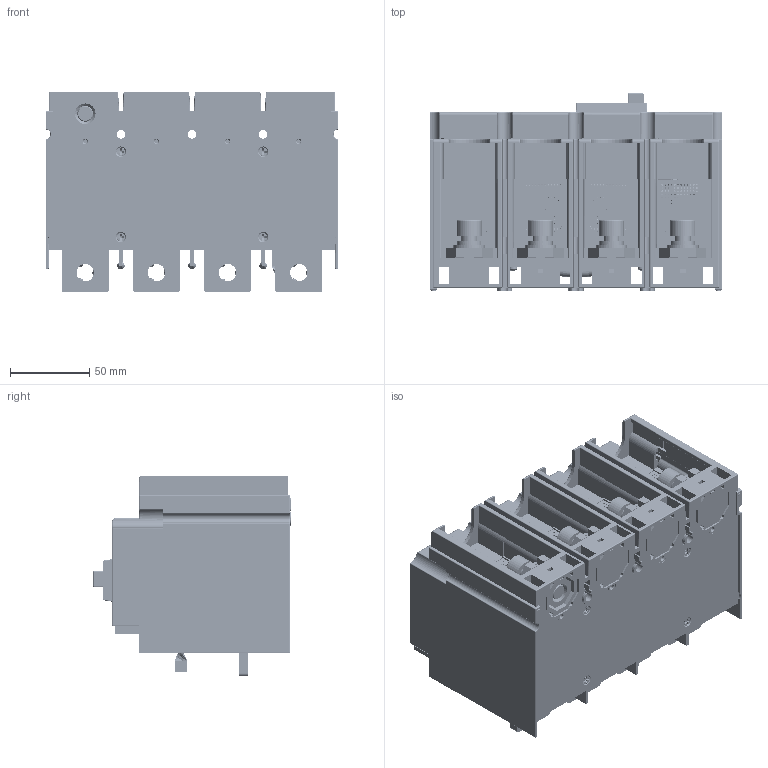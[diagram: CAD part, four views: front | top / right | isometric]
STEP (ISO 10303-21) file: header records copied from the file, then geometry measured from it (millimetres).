
FILE_DESCRIPTION((''),'2;1');
FILE_NAME('6ZTD-229-385-1-6_ASM','2020-07-29T17:38:56',('zhxmin'),(''),'CREO PARAMETRIC BY PTC INC, 2018020','CREO PARAMETRIC BY PTC INC, 2018020','');
FILE_SCHEMA(('CONFIG_CONTROL_DESIGN','SHAPE_APPEARANCE_LAYERS_GROUPS'));
Products named in the file (91): 8ZTD-024-484; 8043M0101008; 8300M0101011; 8615M0725003; 8300M0101012; 6179M1526003V1; 6179M1526003V2; 8369M0306004; 8369M0306005; 6179M1526003_ASM; 8043M0101009; 8580M0405013; 8580M0405015; 5519M1526031_ASM; 8580M0405011; 5519M1526029_ASM; 8580M0405012; 5519M1526030_ASM; 8580M0406016; 8580M0406017; 8580M0406018; 8580M0405014; 5519M1526032_ASM; 8580M0406019; GBT860-4; GBT70_1-M4X35; 5519M1526027V1; 5519M1526027V2; 5519M1526028_ASM; 8043M0101010; 8599M1121001; 5599M1121002V1; 5599M1121002V2; 5599M1121002V3; 5599M11210021-2_ASM; 8599M1121002; 5599M1121003_ASM; 5599M11212011-4_ASM; 8315M0101031; 8742M0101010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
Assembly tree (177 placements, depth 8):
  6ZTD-229-385-1-6_ASM
    8ZTD-024-484
    5519M1526028_ASM
      8043M0101008
      6179M1526003_ASM
        8300M0101011
        8615M0725003
        8300M0101012
        6179M1526003V1
        6179M1526003V2
        8369M0306004  x2
        8369M0306005  x36
      8043M0101009
      5519M1526031_ASM
        8580M0405013
        8580M0405015
      5519M1526029_ASM
        8580M0405011
        8580M0405015
      5519M1526030_ASM
        8580M0405012
        8580M0405015
      8580M0406016
      8580M0406017
      8580M0406018
      5519M1526032_ASM
        8580M0405014
        8580M0405015
      8580M0406019
      GBT860-4  x8
      GBT70_1-M4X35  x8
      5519M1526027V1  x4
      5519M1526027V2  x4
    8043M0101010
    5599M11212011-4_ASM
      5599M11210021-2_ASM
        8599M1121001
        5599M1121002V1  x2
        5599M1121002V2
        5599M1121002V3
      5599M1121003_ASM
        8599M1121002
    8315M0101031
    8742M0101010  x4
    8940M0312001  x4
    8300M0101003  x4
    5ZTD-315-547_ASM
      8ZTD-315-1465
      5ZTD-295-570_ASM
        5ZTD-295-569_ASM
          5295M1526017_ASM
            5050M1526001_ASM
            5235M1526003_ASM
              5235M1501003_ASM
                5235M1501003V1
                8239M0304003
              8206M0312021
              8288M0820022
              8231M0306001
            5257M1526007_ASM
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Bounding box: 185 x 125 x 127 mm (x, y, z)
Volume: 755810.6 mm3; surface area: 749562.7 mm2
Topology: 162 solids, 207 shells, 8346 faces, 22164 edges, 14391 vertices
Faces by surface type: cylinder 4076, plane 3612, torus 292, cone 203, sphere 88, bspline 62, revolution 12, extrusion 1
Entity records: 218282 total; most frequent: CARTESIAN_POINT 48644, DIRECTION 29093, ORIENTED_EDGE 27834, EDGE_CURVE 13953, AXIS2_PLACEMENT_3D 9964, PRESENTATION_STYLE_ASSIGNMENT 9593, STYLED_ITEM 9283, CURVE_STYLE 9240
